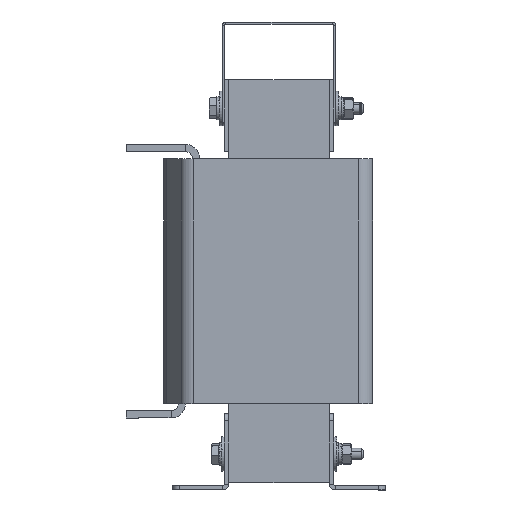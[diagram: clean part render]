
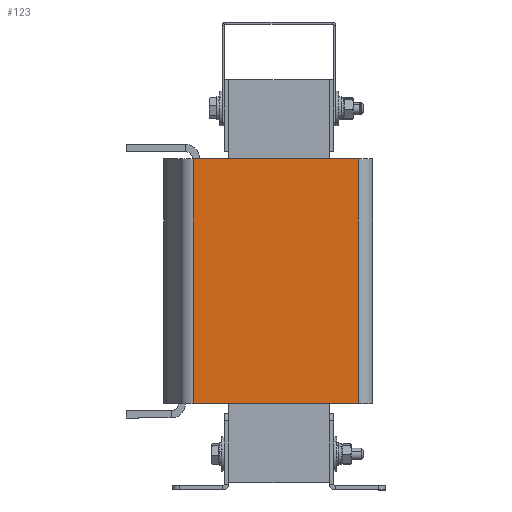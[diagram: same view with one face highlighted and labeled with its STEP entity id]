
A CAD part, left-side view. The second image highlights one B-rep face of the part: STEP entity #123.
In plain terms, the highlighted planar face has unit normal (-1, 0, 0).
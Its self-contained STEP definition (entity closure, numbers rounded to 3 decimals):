
#123 = ADVANCED_FACE ( 'NONE', ( #8575 ), #8772, .T. ) ;
#216 = LINE ( 'NONE', #1772, #1715 ) ;
#971 = CARTESIAN_POINT ( 'NONE',  ( -45., -55., 0. ) ) ;
#1077 = EDGE_CURVE ( 'NONE', #1892, #9641, #8082, .T. ) ;
#1183 = EDGE_LOOP ( 'NONE', ( #3065, #4553, #8702, #9037 ) ) ;
#1715 = VECTOR ( 'NONE', #4864, 1000. ) ;
#1772 = CARTESIAN_POINT ( 'NONE',  ( -45., -55., -170. ) ) ;
#1892 = VERTEX_POINT ( 'NONE', #4464 ) ;
#2239 = CARTESIAN_POINT ( 'NONE',  ( -45., 59.615, -170. ) ) ;
#2824 = VERTEX_POINT ( 'NONE', #3728 ) ;
#3065 = ORIENTED_EDGE ( 'NONE', *, *, #1077, .T. ) ;
#3079 = EDGE_CURVE ( 'NONE', #2824, #1892, #6042, .T. ) ;
#3201 = DIRECTION ( 'NONE',  ( 0., 0., -1. ) ) ;
#3237 = EDGE_CURVE ( 'NONE', #2824, #4223, #6912, .T. ) ;
#3509 = CARTESIAN_POINT ( 'NONE',  ( -45., 65., -170. ) ) ;
#3513 = DIRECTION ( 'NONE',  ( 0., -1., 0. ) ) ;
#3728 = CARTESIAN_POINT ( 'NONE',  ( -45., 59.615, 0. ) ) ;
#4119 = DIRECTION ( 'NONE',  ( -1., 0., 0. ) ) ;
#4223 = VERTEX_POINT ( 'NONE', #971 ) ;
#4336 = EDGE_CURVE ( 'NONE', #9641, #4223, #216, .T. ) ;
#4464 = CARTESIAN_POINT ( 'NONE',  ( -45., 59.615, -170. ) ) ;
#4553 = ORIENTED_EDGE ( 'NONE', *, *, #4336, .T. ) ;
#4864 = DIRECTION ( 'NONE',  ( 0., 0., 1. ) ) ;
#4925 = CARTESIAN_POINT ( 'NONE',  ( -45., 65., -170. ) ) ;
#5485 = DIRECTION ( 'NONE',  ( 0., 0., 1. ) ) ;
#5528 = VECTOR ( 'NONE', #3513, 1000. ) ;
#6042 = LINE ( 'NONE', #2239, #6657 ) ;
#6657 = VECTOR ( 'NONE', #3201, 1000. ) ;
#6912 = LINE ( 'NONE', #7053, #5528 ) ;
#7053 = CARTESIAN_POINT ( 'NONE',  ( -45., 65., 0. ) ) ;
#7310 = DIRECTION ( 'NONE',  ( 0., -1., 0. ) ) ;
#8072 = CARTESIAN_POINT ( 'NONE',  ( -45., -55., -170. ) ) ;
#8082 = LINE ( 'NONE', #3509, #9749 ) ;
#8575 = FACE_OUTER_BOUND ( 'NONE', #1183, .T. ) ;
#8702 = ORIENTED_EDGE ( 'NONE', *, *, #3237, .F. ) ;
#8772 = PLANE ( 'NONE',  #9574 ) ;
#9037 = ORIENTED_EDGE ( 'NONE', *, *, #3079, .T. ) ;
#9574 = AXIS2_PLACEMENT_3D ( 'NONE', #4925, #4119, #5485 ) ;
#9641 = VERTEX_POINT ( 'NONE', #8072 ) ;
#9749 = VECTOR ( 'NONE', #7310, 1000. ) ;
